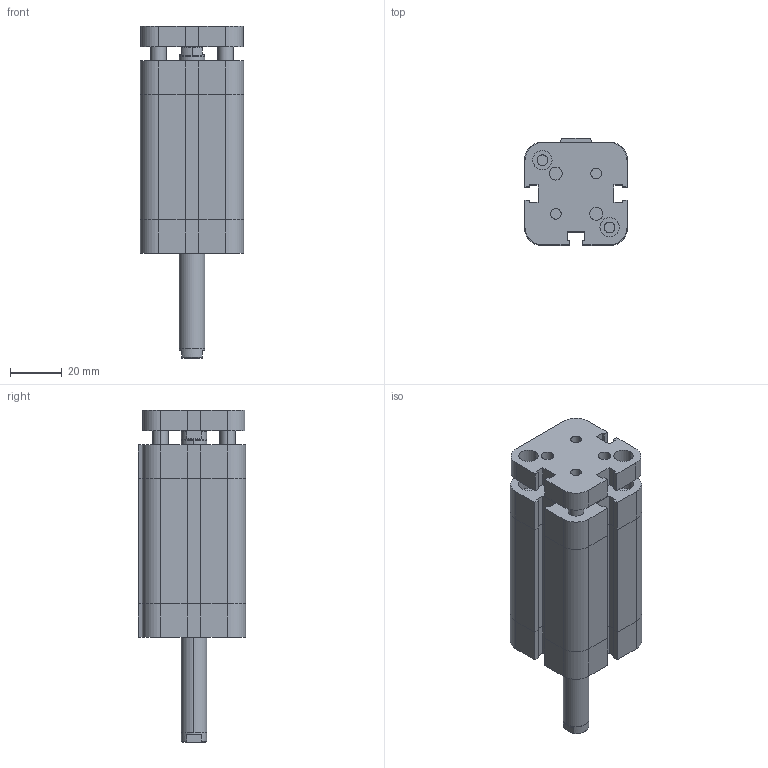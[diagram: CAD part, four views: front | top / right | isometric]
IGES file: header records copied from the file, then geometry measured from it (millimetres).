
Global section: file name: No Iges File Name specified; native system: Autodesk Inventor 2009; preprocessor: AutoDesk Inventor Iges Exporter R2009; author: maffial1; date: 20090420.202022; units: millimetre
Bounding box: 40 x 41.5 x 128.5 mm (x, y, z)
Volume: 123057 mm3; surface area: 32946.2 mm2
Topology: 2 solids, 2 shells, 241 faces, 570 edges, 354 vertices
Faces by surface type: plane 135, bspline 72, cylinder 26, cone 8
